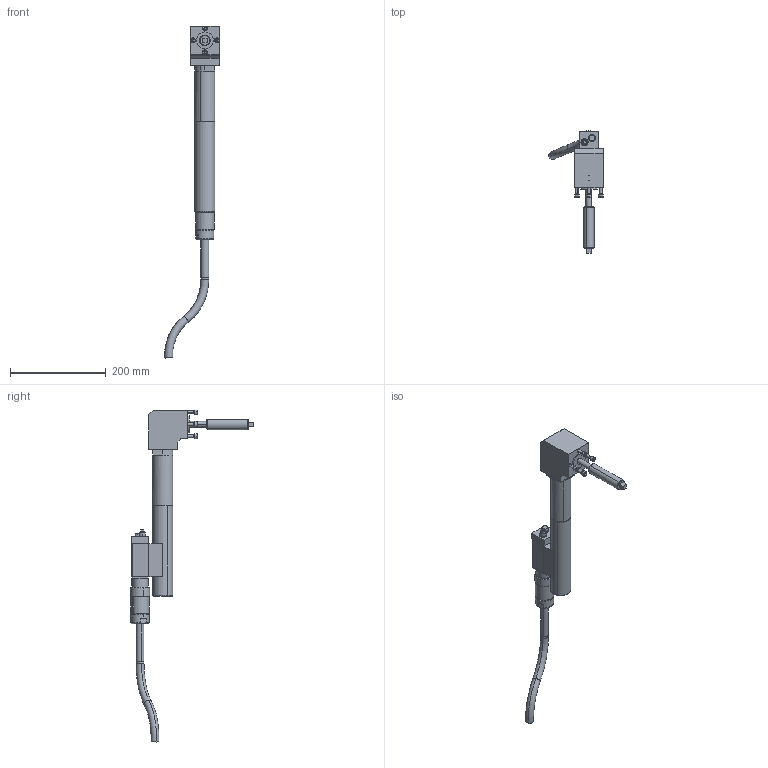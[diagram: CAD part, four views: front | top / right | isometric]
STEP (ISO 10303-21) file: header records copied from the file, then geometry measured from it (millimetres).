
FILE_DESCRIPTION(('CATIA V5 STEP Exchange'),'2;1');
FILE_NAME('O:\3D-Schrauber\Einschauschrauber Groesse1 CATIA V4+V5\7920267_ECR105_AW150_AllCATPart.stp','2008-11-06T10:35:28+00:00',('none'),('none'),'CATIA Version 5 Release 16 (IN-10)','CATIA V5 STEP AP203','none');
FILE_SCHEMA(('CONFIG_CONTROL_DESIGN'));
Length unit declared in the file: millimetre
Products named in the file (1): 7920267_ECR105_AW150_AllCATPart
Bounding box: 113.82 x 257.23 x 694.18 mm (x, y, z)
Volume: 1194711.6 mm3; surface area: 151155.6 mm2
Topology: 14 solids, 14 shells, 304 faces, 672 edges, 426 vertices
Faces by surface type: plane 134, cylinder 106, cone 36, torus 28
Entity records: 8018 total; most frequent: CARTESIAN_POINT 1681, ORIENTED_EDGE 1344, DIRECTION 1088, EDGE_CURVE 672, AXIS2_PLACEMENT_3D 537, VERTEX_POINT 426, EDGE_LOOP 334, VECTOR 324
